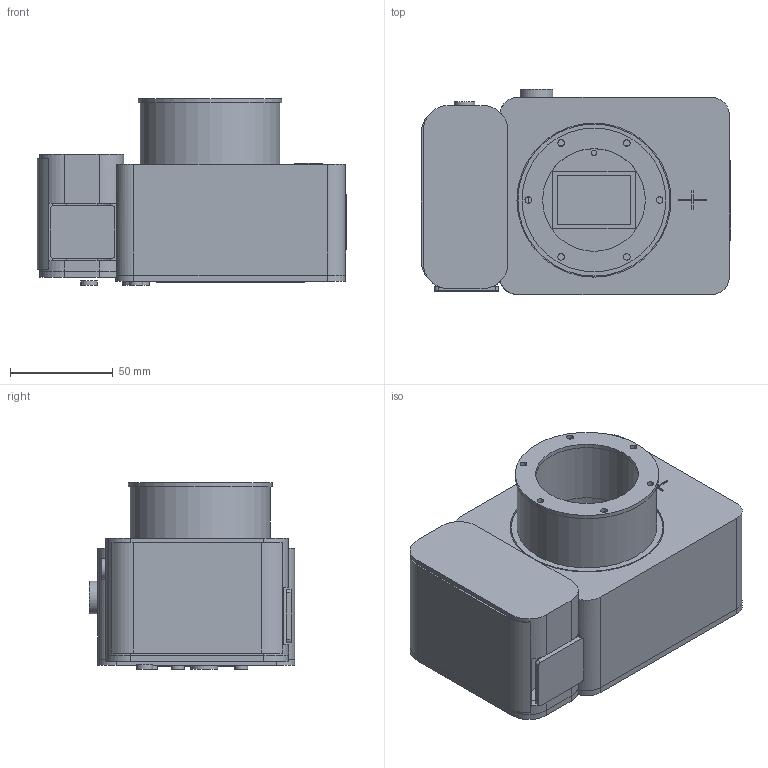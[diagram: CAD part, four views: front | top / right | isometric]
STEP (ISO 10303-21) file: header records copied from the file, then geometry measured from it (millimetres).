
FILE_DESCRIPTION(('Open CASCADE Model'),'2;1');
FILE_NAME('Open CASCADE Shape Model','2026-11-05T01:23:31',('Author'),( 'Open CASCADE'),'Open CASCADE STEP processor 7.8','Open CASCADE 7.8' ,'Unknown');
FILE_SCHEMA(('AUTOMOTIVE_DESIGN { 1 0 10303 214 1 1 1 1 }'));
Length unit declared in the file: millimetre
Products named in the file (25): HassleFree_FF1_EF_concept; 01_front_shell; 02_grip_wrap; 03_rear_shell; 04_load_bearing_chassis; 05_humi_common_interface; 08_ef_mount_cartridge_body; 09_ef_mount_reference_flange; 10_independent_sensor_carrier; 11_sensor_package_placeholder; 12_sensor_active_36x24; 13_three_point_sensor_spacers; 14_heat_spreader_placeholder; 15_main_processing_board_envelope; 16_control_board_provisional_envelope; 26_control_board_component_envelopes; 17_replaceable_battery_envelope; 18_battery_service_door; 19_removable_storage_envelope; 20_storage_service_door; 21_display_module_envelope; 22_rear_buttons; 23_shutter_button; 24_top_control_dial; 25_sensor_datum_mark
Assembly tree (24 placements, depth 2):
  HassleFree_FF1_EF_concept
    01_front_shell
    02_grip_wrap
    03_rear_shell
    04_load_bearing_chassis
    05_humi_common_interface
    08_ef_mount_cartridge_body
    09_ef_mount_reference_flange
    10_independent_sensor_carrier
    11_sensor_package_placeholder
    12_sensor_active_36x24
    13_three_point_sensor_spacers
    14_heat_spreader_placeholder
    15_main_processing_board_envelope
    16_control_board_provisional_envelope
    26_control_board_component_envelopes
    17_replaceable_battery_envelope
    18_battery_service_door
    19_removable_storage_envelope
    20_storage_service_door
    21_display_module_envelope
    22_rear_buttons
    23_shutter_button
    24_top_control_dial
    25_sensor_datum_mark
Bounding box: 150.7 x 100 x 91 mm (x, y, z)
Volume: 354457.5 mm3; surface area: 233797.7 mm2
Topology: 32 solids, 32 shells, 354 faces, 876 edges, 584 vertices
Faces by surface type: plane 212, cylinder 142
Full cylindrical faces by diameter (mm): 1 x14, 2.6 x9, 2.7 x4, 3.2 x24, 6 x3, 6.4 x3, 8 x1, 10 x1, 13 x1, 16 x1, 50 x2, 57 x2, 68 x1, 70 x1, 74 x1, 75 x1
Entity records: 23244 total; most frequent: CARTESIAN_POINT 4383, DIRECTION 3554, LINE 2028, VECTOR 2028, ORIENTED_EDGE 1752, PCURVE 1752, DEFINITIONAL_REPRESENTATION 1752, EDGE_CURVE 876
